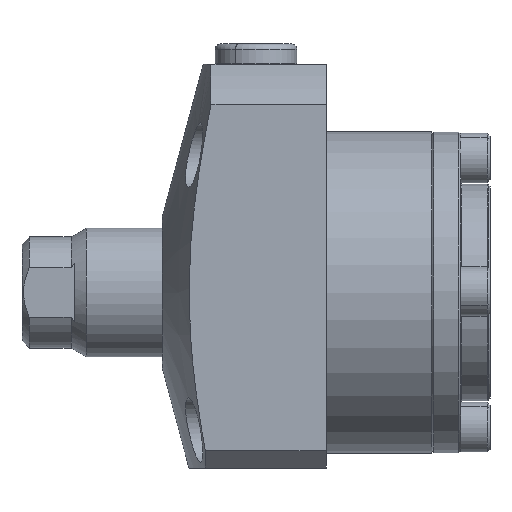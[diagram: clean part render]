
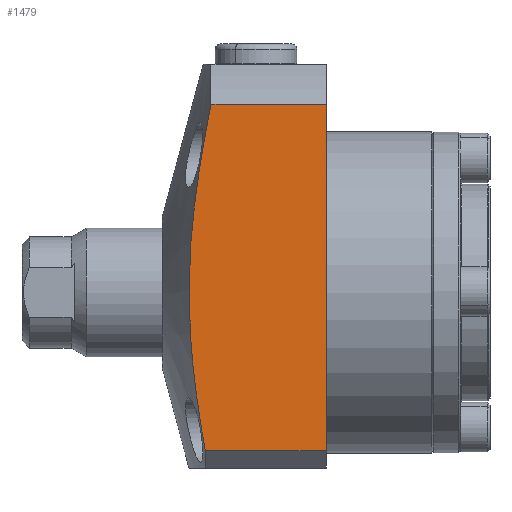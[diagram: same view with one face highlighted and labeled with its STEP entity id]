
A CAD part, left-side view. The second image highlights one B-rep face of the part: STEP entity #1479.
In plain terms, the highlighted planar face has unit normal (-1, 0, 0).
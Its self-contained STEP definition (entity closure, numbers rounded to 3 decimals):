
#586 = ORIENTED_EDGE ( 'NONE', *, *, #1452, .F. ) ;
#587 = ORIENTED_EDGE ( 'NONE', *, *, #1464, .T. ) ;
#588 = ORIENTED_EDGE ( 'NONE', *, *, #1465, .F. ) ;
#589 = ORIENTED_EDGE ( 'NONE', *, *, #1466, .T. ) ;
#926 = VERTEX_POINT ( 'NONE', #2342 ) ;
#927 = VERTEX_POINT ( 'NONE', #2343 ) ;
#928 = VERTEX_POINT ( 'NONE', #2344 ) ;
#929 = VERTEX_POINT ( 'NONE', #2345 ) ;
#978 = EDGE_LOOP ( 'NONE', ( #586, #587, #588, #589 ) ) ;
#1452 = EDGE_CURVE ( 'NONE', #926, #927, #4860, .T. ) ;
#1464 = EDGE_CURVE ( 'NONE', #926, #928, #4647, .T. ) ;
#1465 = EDGE_CURVE ( 'NONE', #929, #928, #4658, .T. ) ;
#1466 = EDGE_CURVE ( 'NONE', #929, #927, #4668, .T. ) ;
#1479 = ADVANCED_FACE ( 'NONE', ( #4732 ), #4733, .F. ) ;
#2342 = CARTESIAN_POINT ( 'NONE',  ( -30., 20.669, -27. ) ) ;
#2343 = CARTESIAN_POINT ( 'NONE',  ( -30., 19.694, 32.187 ) ) ;
#2344 = CARTESIAN_POINT ( 'NONE',  ( -30., 0., -27. ) ) ;
#2345 = CARTESIAN_POINT ( 'NONE',  ( -30., 0., 32.187 ) ) ;
#4138 = VECTOR ( 'NONE', #4665, 1000. ) ;
#4139 = VECTOR ( 'NONE', #4667, 1000. ) ;
#4141 = VECTOR ( 'NONE', #4670, 1000. ) ;
#4162 = AXIS2_PLACEMENT_3D ( 'NONE', #4724, #4735, #4736 ) ;
#4531 = CARTESIAN_POINT ( 'NONE',  ( -30., 21.108, -24.547 ) ) ;
#4532 = CARTESIAN_POINT ( 'NONE',  ( -30., 20.669, -27. ) ) ;
#4536 = CARTESIAN_POINT ( 'NONE',  ( -30., 21.517, -22.084 ) ) ;
#4537 = CARTESIAN_POINT ( 'NONE',  ( -30., 22.24, -17.157 ) ) ;
#4538 = CARTESIAN_POINT ( 'NONE',  ( -30., 22.553, -14.693 ) ) ;
#4539 = CARTESIAN_POINT ( 'NONE',  ( -30., 23.052, -9.761 ) ) ;
#4540 = CARTESIAN_POINT ( 'NONE',  ( -30., 23.237, -7.293 ) ) ;
#4541 = CARTESIAN_POINT ( 'NONE',  ( -30., 23.447, -2.354 ) ) ;
#4542 = CARTESIAN_POINT ( 'NONE',  ( -30., 23.472, 0.118 ) ) ;
#4543 = CARTESIAN_POINT ( 'NONE',  ( -30., 23.358, 5.065 ) ) ;
#4544 = CARTESIAN_POINT ( 'NONE',  ( -30., 23.219, 7.54 ) ) ;
#4545 = CARTESIAN_POINT ( 'NONE',  ( -30., 22.903, 11.256 ) ) ;
#4546 = CARTESIAN_POINT ( 'NONE',  ( -30., 22.781, 12.495 ) ) ;
#4547 = CARTESIAN_POINT ( 'NONE',  ( -30., 22.504, 14.974 ) ) ;
#4548 = CARTESIAN_POINT ( 'NONE',  ( -30., 22.35, 16.215 ) ) ;
#4549 = CARTESIAN_POINT ( 'NONE',  ( -30., 21.85, 19.927 ) ) ;
#4550 = CARTESIAN_POINT ( 'NONE',  ( -30., 21.466, 22.39 ) ) ;
#4551 = CARTESIAN_POINT ( 'NONE',  ( -30., 20.627, 27.3 ) ) ;
#4552 = CARTESIAN_POINT ( 'NONE',  ( -30., 20.172, 29.746 ) ) ;
#4553 = CARTESIAN_POINT ( 'NONE',  ( -30., 19.694, 32.187 ) ) ;
#4647 = LINE ( 'NONE', #4664, #4138 ) ;
#4658 = LINE ( 'NONE', #4666, #4139 ) ;
#4664 = CARTESIAN_POINT ( 'NONE',  ( -30., 28., -27. ) ) ;
#4665 = DIRECTION ( 'NONE',  ( 0., -1., 0. ) ) ;
#4666 = CARTESIAN_POINT ( 'NONE',  ( -30., 0., -30. ) ) ;
#4667 = DIRECTION ( 'NONE',  ( 0., 0., -1. ) ) ;
#4668 = LINE ( 'NONE', #4669, #4141 ) ;
#4669 = CARTESIAN_POINT ( 'NONE',  ( -30., 0., 32.187 ) ) ;
#4670 = DIRECTION ( 'NONE',  ( 0., 1., 0. ) ) ;
#4724 = CARTESIAN_POINT ( 'NONE',  ( -30., 28., 39. ) ) ;
#4732 = FACE_OUTER_BOUND ( 'NONE', #978, .T. ) ;
#4733 = PLANE ( 'NONE',  #4162 ) ;
#4735 = DIRECTION ( 'NONE',  ( 1., 0., 0. ) ) ;
#4736 = DIRECTION ( 'NONE',  ( 0., 0., -1. ) ) ;
#4860 = B_SPLINE_CURVE_WITH_KNOTS ( 'NONE', 3,
 ( #4532, #4531, #4536, #4537, #4538, #4539, #4540, #4541, #4542, #4543, #4544, #4545, #4546, #4547, #4548, #4549, #4550, #4551, #4552, #4553 ),
 .UNSPECIFIED., .F., .F.,
 ( 4, 2, 2, 2, 2, 2, 2, 2, 2, 4 ),
 ( 0.034, 0.041, 0.049, 0.056, 0.064, 0.071, 0.075, 0.078, 0.086, 0.093 ),
 .UNSPECIFIED. ) ;
